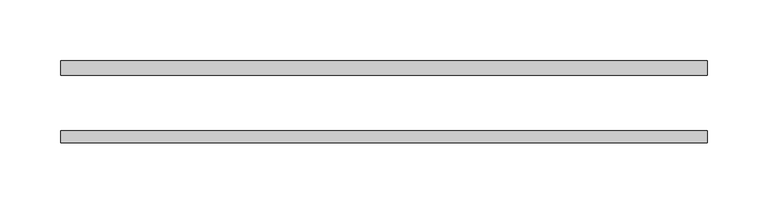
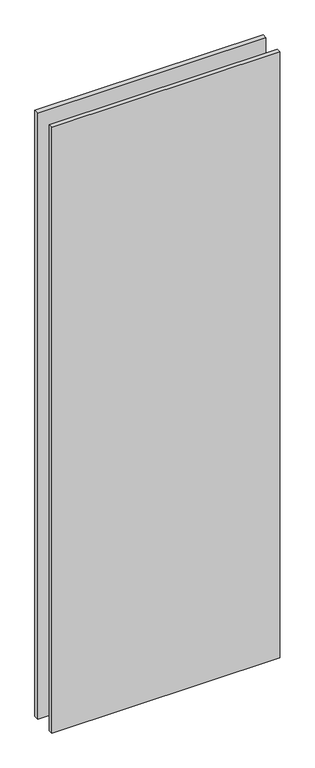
"""IFC4 building model written with IfcOpenShell, lengths in millimetres: plate geometry, Danpal Glass : Danpal Glass."""

import ifcopenshell
import ifcopenshell.guid

model = None  # the IFC model being written
_history = None  # IfcOwnerHistory: only IFC2X3 demands one
_inside = {}  # id of a spatial element -> (the spatial element, [elements in it])
_under = {}  # id of a project, library or spatial element -> (it, [spatial elements below it])
_declared = {}  # id of a project -> (the project, [libraries it declares])
_typed = {}  # id of a type object -> (the type object, [elements of that type])
_made_of = {}  # id of a material, layer set ... -> (it, [elements and type objects made of it])


def new_model(schema):
    """Start an empty IFC model of exactly this schema.

    Asked for "IFC4X3", IfcOpenShell would pick the latest addendum, in which some entities
    have other attributes; the version numbers below select the first issue.
    IFC2X3 requires an IfcOwnerHistory on every rooted entity: one is made here for all.
    """
    global model, _history
    if schema == "IFC4X3":
        model = ifcopenshell.file(schema_version=(4, 3, 0, 0))
    else:
        model = ifcopenshell.file(schema=schema)
    _inside.clear()
    _under.clear()
    _declared.clear()
    _typed.clear()
    _made_of.clear()
    _history = None
    if model.schema == "IFC2X3":
        org = make("IfcOrganization", Name="unknown")
        user = make(
            "IfcPersonAndOrganization",
            ThePerson=make("IfcPerson", FamilyName="unknown"),
            TheOrganization=org,
        )
        app = make(
            "IfcApplication",
            ApplicationDeveloper=org,
            Version="unknown",
            ApplicationFullName="unknown",
            ApplicationIdentifier="unknown",
        )
        _history = make(
            "IfcOwnerHistory",
            OwningUser=user,
            OwningApplication=app,
            ChangeAction="ADDED",
            CreationDate=0,
        )
    return model


def make(cls, **values):
    """One entity of the class cls with the attributes given. An attribute that is None is left unset."""
    return model.create_entity(
        cls, **{name: value for name, value in values.items() if value is not None}
    )


def rooted(cls, **values):
    """An entity with a GlobalId (a new one), such as an element, a storey or a relation."""
    return make(cls, GlobalId=ifcopenshell.guid.new(), OwnerHistory=_history, **values)


def si_unit(unit_type, name, prefix=None):
    """IfcSIUnit, for example si_unit("LENGTHUNIT", "METRE", prefix="MILLI")."""
    return make("IfcSIUnit", UnitType=unit_type, Prefix=prefix, Name=name)


def assignment(units):
    """IfcUnitAssignment: the units of a project."""
    return None if units is None else make("IfcUnitAssignment", Units=units)


def point(xyz):
    """IfcCartesianPoint."""
    return None if xyz is None else make("IfcCartesianPoint", Coordinates=xyz)


def direction(xyz):
    """IfcDirection."""
    return None if xyz is None else make("IfcDirection", DirectionRatios=xyz)


def frame(location, z_axis=None, x_axis=None):
    """IfcAxis2Placement3D, a coordinate frame: its origin and axes. An axis left out is left unset."""
    return make(
        "IfcAxis2Placement3D",
        Location=point(location),
        Axis=direction(z_axis),
        RefDirection=direction(x_axis),
    )


def origin():
    """The frame at (0, 0, 0) with its axes left unset."""
    return frame((0.0, 0.0, 0.0))


def origin_with_axes():
    """The frame at (0, 0, 0) with the z axis (0, 0, 1) and the x axis (1, 0, 0) written out."""
    return frame((0.0, 0.0, 0.0), z_axis=(0.0, 0.0, 1.0), x_axis=(1.0, 0.0, 0.0))


def place(relative_to, where):
    """IfcLocalPlacement: puts the frame where relative to a parent placement (None: the world)."""
    return make(
        "IfcLocalPlacement", PlacementRelTo=relative_to, RelativePlacement=where
    )


def context(
    kind, dimensions, precision=None, world=None, true_north=None, identifier=None
):
    """IfcGeometricRepresentationContext, for example the 3D "Model" context."""
    return make(
        "IfcGeometricRepresentationContext",
        ContextIdentifier=identifier,
        ContextType=kind,
        CoordinateSpaceDimension=dimensions,
        Precision=precision,
        WorldCoordinateSystem=world,
        TrueNorth=true_north,
    )


def project(units=None, contexts=None):
    """IfcProject with its units and contexts."""
    return rooted(
        "IfcProject",
        Name="project",
        RepresentationContexts=contexts,
        UnitsInContext=assignment(units),
    )


def spatial(cls, under=None, at=None, **own):
    """A site, building, storey or space (cls), placed at a placement, below another one or the project."""
    s = rooted(cls, ObjectPlacement=at, **own)
    if under is not None:
        _under.setdefault(under.id(), (under, []))[1].append(s)
    return s


def polyline(points):
    """IfcPolyline through the points."""
    return make("IfcPolyline", Points=[point(p) for p in points])


def outline(outer, holes=None, kind="AREA"):
    """IfcArbitraryClosedProfileDef: a profile drawn as a closed curve; with holes, ...WithVoids."""
    if holes is None:
        return make("IfcArbitraryClosedProfileDef", ProfileType=kind, OuterCurve=outer)
    return make(
        "IfcArbitraryProfileDefWithVoids",
        ProfileType=kind,
        OuterCurve=outer,
        InnerCurves=holes,
    )


def extrude(swept, where, along, depth):
    """IfcExtrudedAreaSolid: the profile swept, set in the frame where, extruded along a direction by depth."""
    return make(
        "IfcExtrudedAreaSolid",
        SweptArea=swept,
        Position=where,
        ExtrudedDirection=direction(along),
        Depth=depth,
    )


def shape(context_of_items, identifier, shape_type, items):
    """IfcShapeRepresentation: the items that make up one representation, for example the "Body"."""
    return make(
        "IfcShapeRepresentation",
        ContextOfItems=context_of_items,
        RepresentationIdentifier=identifier,
        RepresentationType=shape_type,
        Items=items,
    )


def source(mapping_origin, context_of_items, identifier, shape_type, items):
    """IfcRepresentationMap: a shape defined once, which mapped items show again and again."""
    return make(
        "IfcRepresentationMap",
        MappingOrigin=mapping_origin,
        MappedRepresentation=shape(context_of_items, identifier, shape_type, items),
    )


def transform(
    local_origin,
    x_axis=None,
    y_axis=None,
    z_axis=None,
    scale=None,
    scale2=None,
    scale3=None,
    uniform=True,
):
    """IfcCartesianTransformationOperator3D, or its non-uniform kind. x_axis, y_axis, z_axis: its Axis1, 2, 3."""
    if uniform:
        return make(
            "IfcCartesianTransformationOperator3D",
            Axis1=direction(x_axis),
            Axis2=direction(y_axis),
            LocalOrigin=point(local_origin),
            Scale=scale,
            Axis3=direction(z_axis),
        )
    return make(
        "IfcCartesianTransformationOperator3DnonUniform",
        Axis1=direction(x_axis),
        Axis2=direction(y_axis),
        LocalOrigin=point(local_origin),
        Scale=scale,
        Axis3=direction(z_axis),
        Scale2=scale2,
        Scale3=scale3,
    )


def mapped(mapping_source, mapping_target):
    """IfcMappedItem: shows the shape of a source again, moved by a transform."""
    return make(
        "IfcMappedItem", MappingSource=mapping_source, MappingTarget=mapping_target
    )


def made_of(thing, what):
    """Note that an element or type object is made of a material, layer set ...; save() writes the relation."""
    if what is not None:
        _made_of.setdefault(what.id(), (what, []))[1].append(thing)
    return thing


def element(
    cls,
    number,
    at=None,
    inside=None,
    cuts=None,
    type_object=None,
    material=None,
    context=None,
    identifier="Body",
    shape_type=None,
    held_by="IfcProductDefinitionShape",
    body=None,
    shapes=None,
    **own,
):
    """One element of the class cls, such as IfcWall. Its Tag is "e" and its number.

    at: its placement. inside: the storey or other place that contains it. cuts: it is an
    opening in that element (IfcRelVoidsElement). A single representation is given by context,
    identifier, shape_type and body (its items); several are given by shapes. held_by: the class
    of the entity that holds the representations. save() writes the other relations.
    """
    e = rooted(cls, Tag="e%d" % number, ObjectPlacement=at, **own)
    if body is not None:
        shapes = [shape(context, identifier, shape_type, body)]
    if shapes is not None:
        e.Representation = make(held_by, Representations=shapes)
    if inside is not None:
        _inside.setdefault(inside.id(), (inside, []))[1].append(e)
    if cuts is not None:
        rooted(
            "IfcRelVoidsElement", RelatingBuildingElement=cuts, RelatedOpeningElement=e
        )
    if type_object is not None:
        _typed.setdefault(type_object.id(), (type_object, []))[1].append(e)
    return made_of(e, material)


def aggregate(whole, parts):
    """IfcRelAggregates: a whole, such as a stair, and the parts it consists of."""
    return rooted("IfcRelAggregates", RelatingObject=whole, RelatedObjects=parts)


def save(model, path):
    """Write the relations noted so far, then the file.

    IfcRelAggregates (storeys below a building ...), IfcRelContainedInSpatialStructure (elements
    in a storey), IfcRelDefinesByType, IfcRelAssociatesMaterial and IfcRelDeclares: one each for
    every whole, place, type object, material and project.
    """
    for whole, parts in _under.values():
        aggregate(whole, parts)
    for where, things in _inside.values():
        rooted(
            "IfcRelContainedInSpatialStructure",
            RelatedElements=things,
            RelatingStructure=where,
        )
    for kind, things in _typed.values():
        rooted("IfcRelDefinesByType", RelatedObjects=things, RelatingType=kind)
    for what, things in _made_of.values():
        rooted("IfcRelAssociatesMaterial", RelatedObjects=things, RelatingMaterial=what)
    for by, libraries in _declared.values():
        rooted("IfcRelDeclares", RelatingContext=by, RelatedDefinitions=libraries)
    model.write(path)


def plate_85ba1ede(model_context):
    return source(origin(), model_context, "Body", "SweptSolid", [
        extrude(outline(polyline([(-267.0623338, 79.9), (267.0623338, 79.9), (267.0623338, 67.9), (-267.0623338, 67.9), (-267.0623338, 79.9)])), origin_with_axes(), (0.0, 0.0, 1.0), 1500.0),
        extrude(outline(polyline([(267.0623338, 11.9), (-267.0623338, 11.9), (-267.0623338, 21.9), (267.0623338, 21.9), (267.0623338, 11.9)])), origin_with_axes(), (0.0, 0.0, 1.0), 1500.0),
    ])


if __name__ == "__main__":
    model = new_model("IFC4")
    model_context = context("Model", 3, world=origin())
    ifc_project = project(units=[si_unit("LENGTHUNIT", "METRE", prefix="MILLI")], contexts=[model_context])
    site = spatial("IfcSite", under=ifc_project)
    building = spatial("IfcBuilding", under=site)
    placement = place(None, origin())
    plate_shape = plate_85ba1ede(model_context)
    element("IfcPlate", 1, ObjectType="Danpal Glass : Danpal Glass", at=placement, inside=building, context=model_context, shape_type="MappedRepresentation", body=[
        mapped(plate_shape, transform((0.0, 0.0, 0.0), x_axis=(1.0, 0.0, 0.0), y_axis=(0.0, 1.0, 0.0), z_axis=(0.0, 0.0, 1.0))),
    ])
    save(model, "model.ifc")
